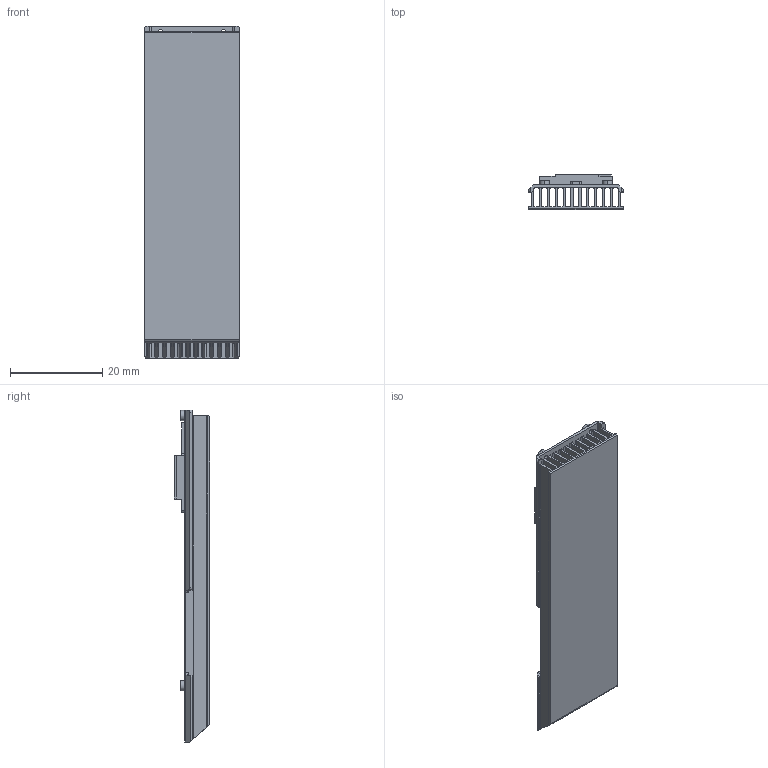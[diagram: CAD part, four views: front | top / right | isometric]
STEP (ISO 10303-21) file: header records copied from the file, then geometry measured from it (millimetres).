
FILE_DESCRIPTION((''),'2;1');
FILE_NAME('100017323_-M00','2026-05-20T09:15:51',('shuku'),(''),'CREO PARAMETRIC BY PTC INC, 2020053','CREO PARAMETRIC BY PTC INC, 2020053','');
FILE_SCHEMA(('CONFIG_CONTROL_DESIGN'));
Length unit declared in the file: millimetre
Products named in the file (1): 100017323_-M00
Bounding box: 20.48 x 7.61 x 71.79 mm (x, y, z)
Volume: 3668 mm3; surface area: 11660 mm2
Topology: 1 solids, 1 shells, 213 faces, 696 edges, 460 vertices
Faces by surface type: plane 110, cylinder 99, cone 4
Entity records: 7835 total; most frequent: CARTESIAN_POINT 1578, ORIENTED_EDGE 1392, DIRECTION 1240, EDGE_CURVE 696, VECTOR 474, LINE 474, VERTEX_POINT 460, AXIS2_PLACEMENT_3D 383
